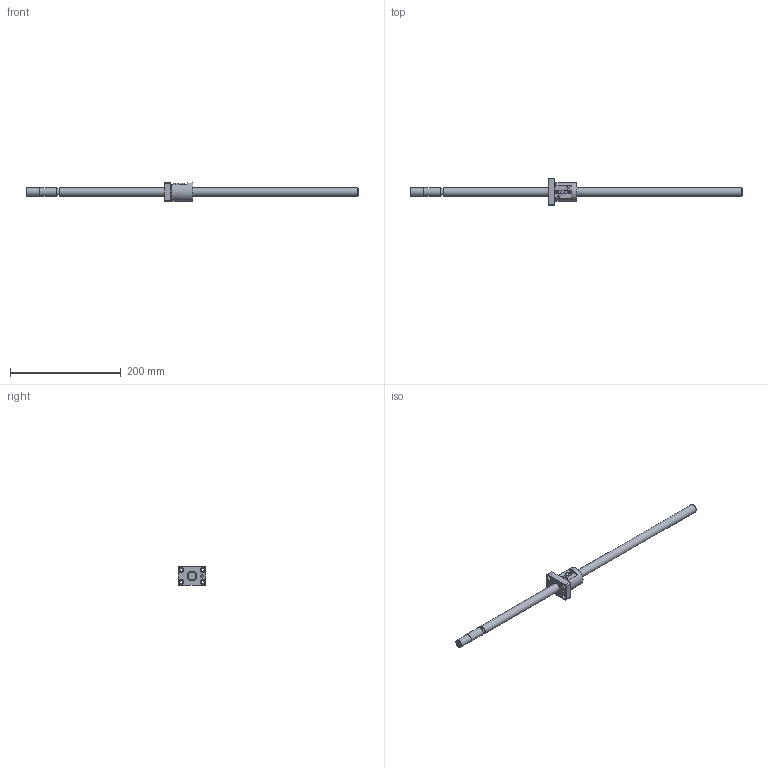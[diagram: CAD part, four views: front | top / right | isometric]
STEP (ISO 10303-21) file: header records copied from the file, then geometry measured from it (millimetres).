
FILE_DESCRIPTION (( 'STEP AP214' ), '1' );
FILE_NAME ('KBS(C)1510-600.STEP', '2021-07-05T02:11:50', ( '' ), ( '' ), 'SwSTEP 2.0', 'SolidWorks 2019', '' );
FILE_SCHEMA (( 'AUTOMOTIVE_DESIGN' ));
Length unit declared in the file: millimetre
Products named in the file (3): KBS(C)1510-600; KBS1510; KBS1510-600
Assembly tree (2 placements, depth 2):
  KBS(C)1510-600
    KBS1510-600
    KBS1510
Bounding box: 600 x 50 x 34 mm (x, y, z)
Volume: 148167 mm3; surface area: 41968.7 mm2
Topology: 2 solids, 2 shells, 103 faces, 262 edges, 173 vertices
Faces by surface type: plane 55, cylinder 40, cone 4, torus 4
Full cylindrical faces by diameter (mm): 3.2 x1, 5 x1, 5.5 x4, 5.6 x2, 9.5 x4, 12.5 x1, 14.5 x1, 15 x3, 17 x2, 34 x1
Entity records: 3303 total; most frequent: CARTESIAN_POINT 868, DIRECTION 464, ORIENTED_EDGE 448, EDGE_CURVE 224, AXIS2_PLACEMENT_3D 176, VERTEX_POINT 164, EDGE_LOOP 158, FACE_OUTER_BOUND 127
